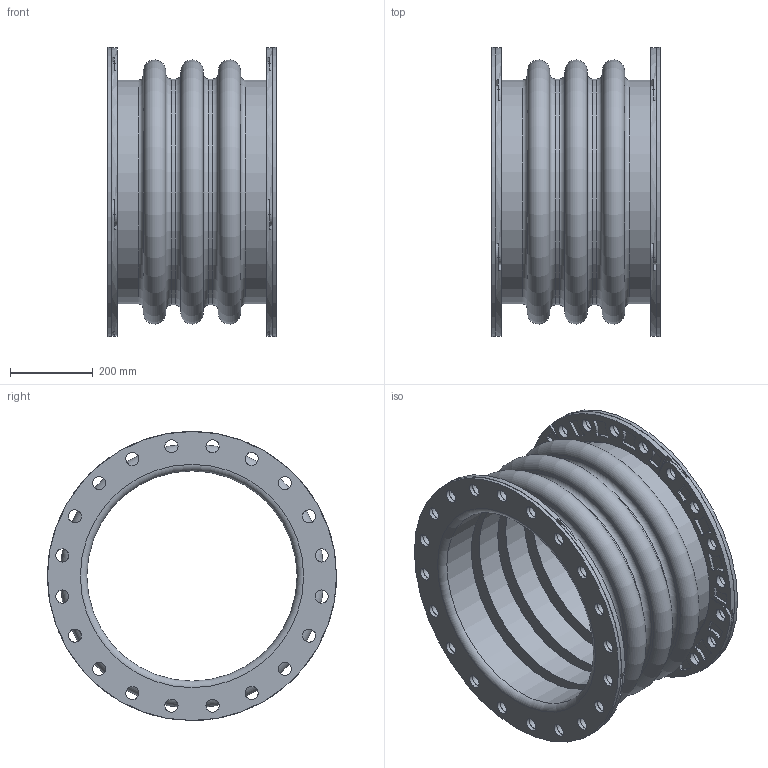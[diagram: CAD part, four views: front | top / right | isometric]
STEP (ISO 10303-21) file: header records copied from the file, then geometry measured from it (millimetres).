
FILE_DESCRIPTION(/* description */ (''),/* implementation_level */ '2;1');
FILE_NAME(/* name */ 'C:\001_Work\Designs\Mercer2014\MQInventor2014\RajR\500 Style\503\New folder\503 20IDx16FF.stp',/* time_stamp */ '2016-03-26T18:02:43-04:00',/* author */ ('rramoutar'),/* organization */ ('Mason Industries Inc.'),/* preprocessor_version */ 'ST-DEVELOPER v15.6',/* originating_system */ 'Autodesk Inventor 2015',/* authorisation */ '');
FILE_SCHEMA (('CONFIG_CONTROL_DESIGN'));
Length unit declared in the file: inch
Products named in the file (1): 503 20IDx16FF
Bounding box: 406.4 x 698.5 x 698.5 mm (x, y, z)
Volume: 22966047.5 mm3; surface area: 3559000.7 mm2
Topology: 3 solids, 3 shells, 614 faces, 1674 edges, 1104 vertices
Faces by surface type: cylinder 442, plane 144, torus 16, cone 12
Full cylindrical faces by diameter (mm): 31.75 x80, 508 x4, 539.75 x2, 546.1 x2, 552.45 x2, 698.5 x2
Entity records: 20188 total; most frequent: DIRECTION 3754, CARTESIAN_POINT 3249, ORIENTED_EDGE 3084, AXIS2_PLACEMENT_3D 1597, EDGE_CURVE 1542, VERTEX_POINT 1092, CIRCLE 982, EDGE_LOOP 938
